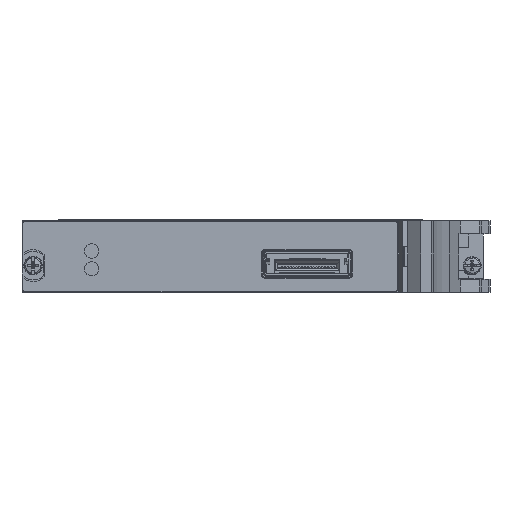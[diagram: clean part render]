
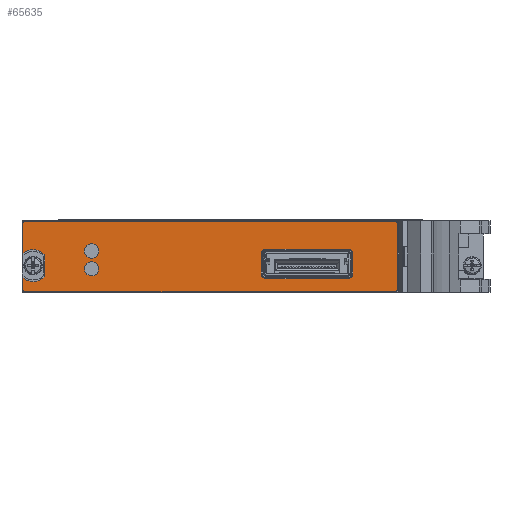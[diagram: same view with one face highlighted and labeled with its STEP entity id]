
A CAD part, left-side view. The second image highlights one B-rep face of the part: STEP entity #65635.
In plain terms, the highlighted planar face has unit normal (-1, 0, 0).
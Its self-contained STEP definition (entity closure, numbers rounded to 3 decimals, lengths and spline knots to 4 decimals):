
#60337=CARTESIAN_POINT('',(-0.215,0.5344,0.6648));
#60338=DIRECTION('',(-1.,0.,0.));
#60339=DIRECTION('',(0.,0.,1.));
#60340=AXIS2_PLACEMENT_3D('',#60337,#60338,#60339);
#60342=DIRECTION('',(0.,1.,0.));
#60343=VECTOR('',#60342,4.07);
#60344=CARTESIAN_POINT('',(-0.215,-3.5356,0.6848));
#60345=LINE('',#60344,#60343);
#60346=CARTESIAN_POINT('',(-0.215,-3.5356,0.6648));
#60347=DIRECTION('',(-1.,0.,0.));
#60348=DIRECTION('',(0.,-1.,0.));
#60349=AXIS2_PLACEMENT_3D('',#60346,#60347,#60348);
#60351=DIRECTION('',(0.,0.,1.));
#60352=VECTOR('',#60351,0.728);
#60353=CARTESIAN_POINT('',(-0.215,-3.5556,-0.0633));
#60354=LINE('',#60353,#60352);
#60355=CARTESIAN_POINT('',(-0.215,-3.5356,-0.0633));
#60356=DIRECTION('',(-1.,0.,0.));
#60357=DIRECTION('',(0.,0.,-1.));
#60358=AXIS2_PLACEMENT_3D('',#60355,#60356,#60357);
#60360=DIRECTION('',(0.,-1.,0.));
#60361=VECTOR('',#60360,4.07);
#60362=CARTESIAN_POINT('',(-0.215,0.5344,-0.0833));
#60363=LINE('',#60362,#60361);
#60364=CARTESIAN_POINT('',(-0.215,0.5344,-0.0633));
#60365=DIRECTION('',(-1.,0.,0.));
#60366=DIRECTION('',(0.,1.,0.));
#60367=AXIS2_PLACEMENT_3D('',#60364,#60365,#60366);
#60369=DIRECTION('',(0.,0.,-1.));
#60370=VECTOR('',#60369,0.1295);
#60371=CARTESIAN_POINT('',(-0.215,0.5544,0.0663));
#60372=LINE('',#60371,#60370);
#60373=CARTESIAN_POINT('',(-0.215,0.4424,0.2008));
#60374=DIRECTION('',(1.,0.,0.));
#60375=DIRECTION('',(0.,-0.737,-0.676));
#60376=AXIS2_PLACEMENT_3D('',#60373,#60374,#60375);
#60378=DIRECTION('',(0.,0.,-1.));
#60379=VECTOR('',#60378,0.2365);
#60380=CARTESIAN_POINT('',(-0.215,0.3134,0.319));
#60381=LINE('',#60380,#60379);
#60382=CARTESIAN_POINT('',(-0.215,0.4424,0.2008));
#60383=DIRECTION('',(1.,0.,0.));
#60384=DIRECTION('',(0.,0.64,0.768));
#60385=AXIS2_PLACEMENT_3D('',#60382,#60383,#60384);
#60387=DIRECTION('',(0.,0.,-1.));
#60388=VECTOR('',#60387,0.3295);
#60389=CARTESIAN_POINT('',(-0.215,0.5544,0.6648));
#60390=LINE('',#60389,#60388);
#60391=CARTESIAN_POINT('',(-0.215,-0.1996,0.3618));
#60392=DIRECTION('',(-1.,0.,0.));
#60393=DIRECTION('',(0.,0.,1.));
#60394=AXIS2_PLACEMENT_3D('',#60391,#60392,#60393);
#60396=CARTESIAN_POINT('',(-0.215,-0.1996,0.3618));
#60397=DIRECTION('',(-1.,0.,0.));
#60398=DIRECTION('',(0.,0.,-1.));
#60399=AXIS2_PLACEMENT_3D('',#60396,#60397,#60398);
#60401=CARTESIAN_POINT('',(-0.215,-0.1996,0.1668));
#60402=DIRECTION('',(-1.,0.,0.));
#60403=DIRECTION('',(0.,0.,1.));
#60404=AXIS2_PLACEMENT_3D('',#60401,#60402,#60403);
#60406=CARTESIAN_POINT('',(-0.215,-0.1996,0.1668));
#60407=DIRECTION('',(-1.,0.,0.));
#60408=DIRECTION('',(0.,0.,-1.));
#60409=AXIS2_PLACEMENT_3D('',#60406,#60407,#60408);
#60411=CARTESIAN_POINT('',(-0.215,-2.1131,0.1086));
#60412=DIRECTION('',(-1.,0.,0.));
#60413=DIRECTION('',(0.,1.,0.));
#60414=AXIS2_PLACEMENT_3D('',#60411,#60412,#60413);
#60416=DIRECTION('',(0.,-1.,0.));
#60417=VECTOR('',#60416,0.9055);
#60418=CARTESIAN_POINT('',(-0.215,-2.1131,0.0593));
#60419=LINE('',#60418,#60417);
#60420=CARTESIAN_POINT('',(-0.215,-3.0186,0.1086));
#60421=DIRECTION('',(-1.,0.,0.));
#60422=DIRECTION('',(0.,0.,-1.));
#60423=AXIS2_PLACEMENT_3D('',#60420,#60421,#60422);
#60425=DIRECTION('',(0.,0.,1.));
#60426=VECTOR('',#60425,0.2244);
#60427=CARTESIAN_POINT('',(-0.215,-3.0679,0.1086));
#60428=LINE('',#60427,#60426);
#60429=CARTESIAN_POINT('',(-0.215,-3.0186,0.3331));
#60430=DIRECTION('',(-1.,0.,0.));
#60431=DIRECTION('',(0.,-1.,0.));
#60432=AXIS2_PLACEMENT_3D('',#60429,#60430,#60431);
#60434=DIRECTION('',(0.,1.,0.));
#60435=VECTOR('',#60434,0.9055);
#60436=CARTESIAN_POINT('',(-0.215,-3.0186,0.3824));
#60437=LINE('',#60436,#60435);
#60438=CARTESIAN_POINT('',(-0.215,-2.1131,0.3331));
#60439=DIRECTION('',(-1.,0.,0.));
#60440=DIRECTION('',(0.,0.,1.));
#60441=AXIS2_PLACEMENT_3D('',#60438,#60439,#60440);
#60443=DIRECTION('',(0.,0.,-1.));
#60444=VECTOR('',#60443,0.2244);
#60445=CARTESIAN_POINT('',(-0.215,-2.0637,0.3331));
#60446=LINE('',#60445,#60444);
#63597=CARTESIAN_POINT('',(-0.215,0.5344,0.6848));
#63598=CARTESIAN_POINT('',(-0.215,0.5544,0.6648));
#63599=VERTEX_POINT('',#63597);
#63600=VERTEX_POINT('',#63598);
#63601=CARTESIAN_POINT('',(-0.215,0.5544,0.3352));
#63602=VERTEX_POINT('',#63601);
#63603=CARTESIAN_POINT('',(-0.215,0.3134,0.319));
#63604=VERTEX_POINT('',#63603);
#63605=CARTESIAN_POINT('',(-0.215,0.3134,0.0825));
#63606=VERTEX_POINT('',#63605);
#63607=CARTESIAN_POINT('',(-0.215,0.5544,0.0663));
#63608=VERTEX_POINT('',#63607);
#63609=CARTESIAN_POINT('',(-0.215,0.5544,-0.0633));
#63610=VERTEX_POINT('',#63609);
#63611=CARTESIAN_POINT('',(-0.215,0.5344,-0.0833));
#63612=VERTEX_POINT('',#63611);
#63613=CARTESIAN_POINT('',(-0.215,-3.5356,-0.0833));
#63614=VERTEX_POINT('',#63613);
#63615=CARTESIAN_POINT('',(-0.215,-3.5556,-0.0633));
#63616=VERTEX_POINT('',#63615);
#63617=CARTESIAN_POINT('',(-0.215,-3.5556,0.6648));
#63618=VERTEX_POINT('',#63617);
#63619=CARTESIAN_POINT('',(-0.215,-3.5356,0.6848));
#63620=VERTEX_POINT('',#63619);
#63629=CARTESIAN_POINT('',(-0.215,-0.1996,0.4403));
#63630=CARTESIAN_POINT('',(-0.215,-0.1996,0.2833));
#63631=VERTEX_POINT('',#63629);
#63632=VERTEX_POINT('',#63630);
#63633=CARTESIAN_POINT('',(-0.215,-0.1996,0.2453));
#63634=CARTESIAN_POINT('',(-0.215,-0.1996,0.0883));
#63635=VERTEX_POINT('',#63633);
#63636=VERTEX_POINT('',#63634);
#63637=CARTESIAN_POINT('',(-0.215,-2.0637,0.1086));
#63638=CARTESIAN_POINT('',(-0.215,-2.1131,0.0593));
#63639=VERTEX_POINT('',#63637);
#63640=VERTEX_POINT('',#63638);
#63641=CARTESIAN_POINT('',(-0.215,-3.0186,0.0593));
#63642=VERTEX_POINT('',#63641);
#63643=CARTESIAN_POINT('',(-0.215,-3.0679,0.1086));
#63644=VERTEX_POINT('',#63643);
#63645=CARTESIAN_POINT('',(-0.215,-3.0679,0.3331));
#63646=VERTEX_POINT('',#63645);
#63647=CARTESIAN_POINT('',(-0.215,-3.0186,0.3824));
#63648=VERTEX_POINT('',#63647);
#63649=CARTESIAN_POINT('',(-0.215,-2.1131,0.3824));
#63650=VERTEX_POINT('',#63649);
#63651=CARTESIAN_POINT('',(-0.215,-2.0637,0.3331));
#63652=VERTEX_POINT('',#63651);
#65585=CARTESIAN_POINT('',(-0.215,0.4424,0.2008));
#65586=DIRECTION('',(-1.,0.,0.));
#65587=DIRECTION('',(0.,0.,1.));
#65588=AXIS2_PLACEMENT_3D('',#65585,#65586,#65587);
#65589=PLANE('',#65588);
#65590=ORIENTED_EDGE('',*,*,#64944,.F.);
#65592=ORIENTED_EDGE('',*,*,#65591,.F.);
#65593=ORIENTED_EDGE('',*,*,#65452,.F.);
#65594=ORIENTED_EDGE('',*,*,#65468,.F.);
#65595=ORIENTED_EDGE('',*,*,#65482,.F.);
#65596=ORIENTED_EDGE('',*,*,#65496,.F.);
#65597=ORIENTED_EDGE('',*,*,#65510,.F.);
#65598=ORIENTED_EDGE('',*,*,#65524,.F.);
#65599=ORIENTED_EDGE('',*,*,#65538,.F.);
#65600=ORIENTED_EDGE('',*,*,#65552,.F.);
#65601=ORIENTED_EDGE('',*,*,#65566,.F.);
#65602=ORIENTED_EDGE('',*,*,#65579,.F.);
#65603=EDGE_LOOP('',(#65590,#65592,#65593,#65594,#65595,#65596,#65597,#65598,
#65599,#65600,#65601,#65602));
#65604=FACE_OUTER_BOUND('',#65603,.F.);
#65606=ORIENTED_EDGE('',*,*,#65605,.T.);
#65608=ORIENTED_EDGE('',*,*,#65607,.T.);
#65609=EDGE_LOOP('',(#65606,#65608));
#65610=FACE_BOUND('',#65609,.F.);
#65612=ORIENTED_EDGE('',*,*,#65611,.T.);
#65614=ORIENTED_EDGE('',*,*,#65613,.T.);
#65615=EDGE_LOOP('',(#65612,#65614));
#65616=FACE_BOUND('',#65615,.F.);
#65618=ORIENTED_EDGE('',*,*,#65617,.T.);
#65620=ORIENTED_EDGE('',*,*,#65619,.T.);
#65622=ORIENTED_EDGE('',*,*,#65621,.T.);
#65624=ORIENTED_EDGE('',*,*,#65623,.T.);
#65626=ORIENTED_EDGE('',*,*,#65625,.T.);
#65628=ORIENTED_EDGE('',*,*,#65627,.T.);
#65630=ORIENTED_EDGE('',*,*,#65629,.T.);
#65632=ORIENTED_EDGE('',*,*,#65631,.T.);
#65633=EDGE_LOOP('',(#65618,#65620,#65622,#65624,#65626,#65628,#65630,#65632));
#65634=FACE_BOUND('',#65633,.F.);
#65635=ADVANCED_FACE('',(#65604,#65610,#65616,#65634),#65589,.T.);
#60341=CIRCLE('',#60340,0.02);
#60350=CIRCLE('',#60349,0.02);
#60359=CIRCLE('',#60358,0.02);
#60368=CIRCLE('',#60367,0.02);
#60377=CIRCLE('',#60376,0.175);
#60386=CIRCLE('',#60385,0.175);
#60395=CIRCLE('',#60394,0.0785);
#60400=CIRCLE('',#60399,0.0785);
#60405=CIRCLE('',#60404,0.0785);
#60410=CIRCLE('',#60409,0.0785);
#60415=CIRCLE('',#60414,0.0494);
#60424=CIRCLE('',#60423,0.0494);
#60433=CIRCLE('',#60432,0.0494);
#60442=CIRCLE('',#60441,0.0494);
#64944=EDGE_CURVE('',#63599,#63600,#60341,.T.);
#65452=EDGE_CURVE('',#63618,#63620,#60350,.T.);
#65468=EDGE_CURVE('',#63616,#63618,#60354,.T.);
#65482=EDGE_CURVE('',#63614,#63616,#60359,.T.);
#65496=EDGE_CURVE('',#63612,#63614,#60363,.T.);
#65510=EDGE_CURVE('',#63610,#63612,#60368,.T.);
#65524=EDGE_CURVE('',#63608,#63610,#60372,.T.);
#65538=EDGE_CURVE('',#63606,#63608,#60377,.T.);
#65552=EDGE_CURVE('',#63604,#63606,#60381,.T.);
#65566=EDGE_CURVE('',#63602,#63604,#60386,.T.);
#65579=EDGE_CURVE('',#63600,#63602,#60390,.T.);
#65591=EDGE_CURVE('',#63620,#63599,#60345,.T.);
#65605=EDGE_CURVE('',#63631,#63632,#60395,.T.);
#65607=EDGE_CURVE('',#63632,#63631,#60400,.T.);
#65611=EDGE_CURVE('',#63635,#63636,#60405,.T.);
#65613=EDGE_CURVE('',#63636,#63635,#60410,.T.);
#65617=EDGE_CURVE('',#63639,#63640,#60415,.T.);
#65619=EDGE_CURVE('',#63640,#63642,#60419,.T.);
#65621=EDGE_CURVE('',#63642,#63644,#60424,.T.);
#65623=EDGE_CURVE('',#63644,#63646,#60428,.T.);
#65625=EDGE_CURVE('',#63646,#63648,#60433,.T.);
#65627=EDGE_CURVE('',#63648,#63650,#60437,.T.);
#65629=EDGE_CURVE('',#63650,#63652,#60442,.T.);
#65631=EDGE_CURVE('',#63652,#63639,#60446,.T.);
